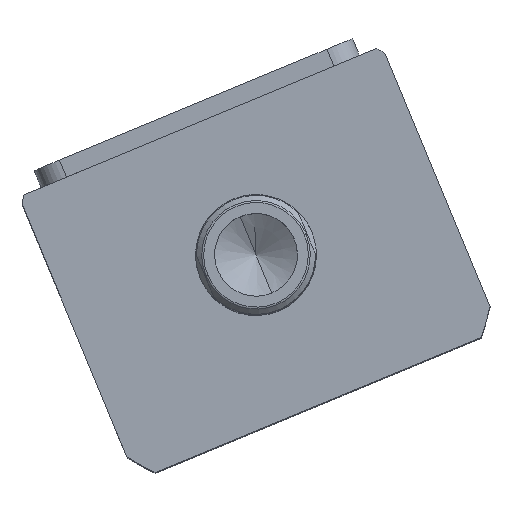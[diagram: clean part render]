
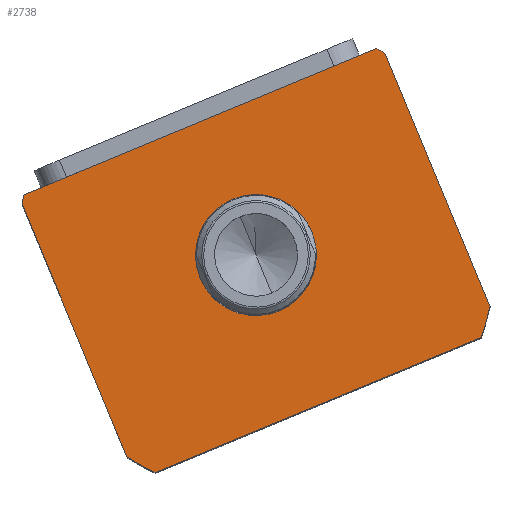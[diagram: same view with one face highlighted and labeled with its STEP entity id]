
A CAD part, top view. The second image highlights one B-rep face of the part: STEP entity #2738.
In plain terms, the highlighted planar face has unit normal (0, 0, 1) as drawn and (0, 0, -1) by its records, which use the part's own axes.
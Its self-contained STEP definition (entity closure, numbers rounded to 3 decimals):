
#55 = DIRECTION ( 'NONE',  ( 0., 0., 1. ) ) ;
#87 = VECTOR ( 'NONE', #17660, 1000. ) ;
#132 = CIRCLE ( 'NONE', #2706, 17.5 ) ;
#497 = DIRECTION ( 'NONE',  ( 0., 0., 1. ) ) ;
#749 = CIRCLE ( 'NONE', #6595, 69.5 ) ;
#859 = EDGE_CURVE ( 'NONE', #9537, #7489, #7304, .T. ) ;
#1380 = EDGE_CURVE ( 'NONE', #9344, #7821, #749, .T. ) ;
#1393 = EDGE_LOOP ( 'NONE', ( #14828, #4481, #18196, #5868, #5953, #9429, #14007, #7573 ) ) ;
#2270 = CARTESIAN_POINT ( 'NONE',  ( 0., 2.5, 0. ) ) ;
#2706 = AXIS2_PLACEMENT_3D ( 'NONE', #2270, #12569, #3734 ) ;
#2738 = ADVANCED_FACE ( 'NONE', ( #5096, #12966 ), #9317, .F. ) ;
#3442 = EDGE_CURVE ( 'NONE', #4138, #11564, #7855, .T. ) ;
#3734 = DIRECTION ( 'NONE',  ( 1., 0., 0. ) ) ;
#4129 = CARTESIAN_POINT ( 'NONE',  ( 0., 2.5, 0. ) ) ;
#4138 = VERTEX_POINT ( 'NONE', #7097 ) ;
#4205 = EDGE_CURVE ( 'NONE', #8725, #9537, #15411, .T. ) ;
#4481 = ORIENTED_EDGE ( 'NONE', *, *, #16721, .F. ) ;
#4792 = CARTESIAN_POINT ( 'NONE',  ( 0., 0., 0. ) ) ;
#4939 = EDGE_LOOP ( 'NONE', ( #9102, #8105 ) ) ;
#5096 = FACE_BOUND ( 'NONE', #4939, .T. ) ;
#5868 = ORIENTED_EDGE ( 'NONE', *, *, #14581, .F. ) ;
#5953 = ORIENTED_EDGE ( 'NONE', *, *, #859, .F. ) ;
#5959 = VERTEX_POINT ( 'NONE', #15974 ) ;
#6211 = VECTOR ( 'NONE', #11194, 1000. ) ;
#6595 = AXIS2_PLACEMENT_3D ( 'NONE', #15836, #7073, #17292 ) ;
#6601 = CARTESIAN_POINT ( 'NONE',  ( -55.374, 44.5, 0. ) ) ;
#6930 = EDGE_CURVE ( 'NONE', #5959, #14930, #16715, .T. ) ;
#7073 = DIRECTION ( 'NONE',  ( 0., 0., 1. ) ) ;
#7097 = CARTESIAN_POINT ( 'NONE',  ( 17.5, 2.5, 0. ) ) ;
#7145 = LINE ( 'NONE', #15504, #6211 ) ;
#7292 = CARTESIAN_POINT ( 'NONE',  ( -57., -37.265, 0. ) ) ;
#7304 = CIRCLE ( 'NONE', #10628, 69.5 ) ;
#7489 = VERTEX_POINT ( 'NONE', #9883 ) ;
#7573 = ORIENTED_EDGE ( 'NONE', *, *, #14785, .F. ) ;
#7630 = CARTESIAN_POINT ( 'NONE',  ( 0., 2.5, 0. ) ) ;
#7742 = CARTESIAN_POINT ( 'NONE',  ( 0., 2.5, 0. ) ) ;
#7821 = VERTEX_POINT ( 'NONE', #14931 ) ;
#7855 = CIRCLE ( 'NONE', #14902, 17.5 ) ;
#8105 = ORIENTED_EDGE ( 'NONE', *, *, #12311, .T. ) ;
#8725 = VERTEX_POINT ( 'NONE', #14831 ) ;
#8848 = LINE ( 'NONE', #16202, #87 ) ;
#8881 = CARTESIAN_POINT ( 'NONE',  ( 0., 2.5, 0. ) ) ;
#8985 = CIRCLE ( 'NONE', #17544, 69.5 ) ;
#9102 = ORIENTED_EDGE ( 'NONE', *, *, #3442, .T. ) ;
#9120 = DIRECTION ( 'NONE',  ( 1., 0., 0. ) ) ;
#9237 = DIRECTION ( 'NONE',  ( 1., 0., 0. ) ) ;
#9317 = PLANE ( 'NONE',  #11100 ) ;
#9344 = VERTEX_POINT ( 'NONE', #17206 ) ;
#9429 = ORIENTED_EDGE ( 'NONE', *, *, #4205, .F. ) ;
#9537 = VERTEX_POINT ( 'NONE', #7292 ) ;
#9883 = CARTESIAN_POINT ( 'NONE',  ( -51.198, -44.5, 0. ) ) ;
#10377 = DIRECTION ( 'NONE',  ( 1., 0., 0. ) ) ;
#10628 = AXIS2_PLACEMENT_3D ( 'NONE', #4129, #18774, #13875 ) ;
#10739 = CARTESIAN_POINT ( 'NONE',  ( -17.5, 2.5, 0. ) ) ;
#10819 = DIRECTION ( 'NONE',  ( 1., 0., 0. ) ) ;
#10928 = VECTOR ( 'NONE', #15110, 1000. ) ;
#11100 = AXIS2_PLACEMENT_3D ( 'NONE', #4792, #497, #10819 ) ;
#11194 = DIRECTION ( 'NONE',  ( 0., 1., 0. ) ) ;
#11564 = VERTEX_POINT ( 'NONE', #10739 ) ;
#12311 = EDGE_CURVE ( 'NONE', #11564, #4138, #132, .T. ) ;
#12569 = DIRECTION ( 'NONE',  ( 0., 0., 1. ) ) ;
#12966 = FACE_OUTER_BOUND ( 'NONE', #1393, .T. ) ;
#13875 = DIRECTION ( 'NONE',  ( 1., 0., 0. ) ) ;
#14007 = ORIENTED_EDGE ( 'NONE', *, *, #16157, .F. ) ;
#14469 = CARTESIAN_POINT ( 'NONE',  ( -57., 44.5, 0. ) ) ;
#14581 = EDGE_CURVE ( 'NONE', #7489, #9344, #8848, .T. ) ;
#14678 = AXIS2_PLACEMENT_3D ( 'NONE', #7742, #17955, #9237 ) ;
#14785 = EDGE_CURVE ( 'NONE', #14930, #16526, #18641, .T. ) ;
#14828 = ORIENTED_EDGE ( 'NONE', *, *, #6930, .F. ) ;
#14831 = CARTESIAN_POINT ( 'NONE',  ( -57., 42.265, 0. ) ) ;
#14902 = AXIS2_PLACEMENT_3D ( 'NONE', #7630, #17851, #9120 ) ;
#14930 = VERTEX_POINT ( 'NONE', #15297 ) ;
#14931 = CARTESIAN_POINT ( 'NONE',  ( 57., -37.265, 0. ) ) ;
#15110 = DIRECTION ( 'NONE',  ( -1., 0., 0. ) ) ;
#15297 = CARTESIAN_POINT ( 'NONE',  ( 55.374, 44.5, 0. ) ) ;
#15411 = LINE ( 'NONE', #14469, #17901 ) ;
#15504 = CARTESIAN_POINT ( 'NONE',  ( 57., 44.5, 0. ) ) ;
#15836 = CARTESIAN_POINT ( 'NONE',  ( 0., 2.5, 0. ) ) ;
#15974 = CARTESIAN_POINT ( 'NONE',  ( 57., 42.265, 0. ) ) ;
#16157 = EDGE_CURVE ( 'NONE', #16526, #8725, #8985, .T. ) ;
#16202 = CARTESIAN_POINT ( 'NONE',  ( -57., -44.5, 0. ) ) ;
#16526 = VERTEX_POINT ( 'NONE', #6601 ) ;
#16715 = CIRCLE ( 'NONE', #14678, 69.5 ) ;
#16721 = EDGE_CURVE ( 'NONE', #7821, #5959, #7145, .T. ) ;
#17206 = CARTESIAN_POINT ( 'NONE',  ( 51.198, -44.5, 0. ) ) ;
#17292 = DIRECTION ( 'NONE',  ( 1., 0., 0. ) ) ;
#17375 = DIRECTION ( 'NONE',  ( 0., -1., 0. ) ) ;
#17544 = AXIS2_PLACEMENT_3D ( 'NONE', #8881, #55, #10377 ) ;
#17660 = DIRECTION ( 'NONE',  ( 1., 0., 0. ) ) ;
#17834 = CARTESIAN_POINT ( 'NONE',  ( -57., 44.5, 0. ) ) ;
#17851 = DIRECTION ( 'NONE',  ( 0., 0., 1. ) ) ;
#17901 = VECTOR ( 'NONE', #17375, 1000. ) ;
#17955 = DIRECTION ( 'NONE',  ( 0., 0., 1. ) ) ;
#18196 = ORIENTED_EDGE ( 'NONE', *, *, #1380, .F. ) ;
#18641 = LINE ( 'NONE', #17834, #10928 ) ;
#18774 = DIRECTION ( 'NONE',  ( 0., 0., 1. ) ) ;
